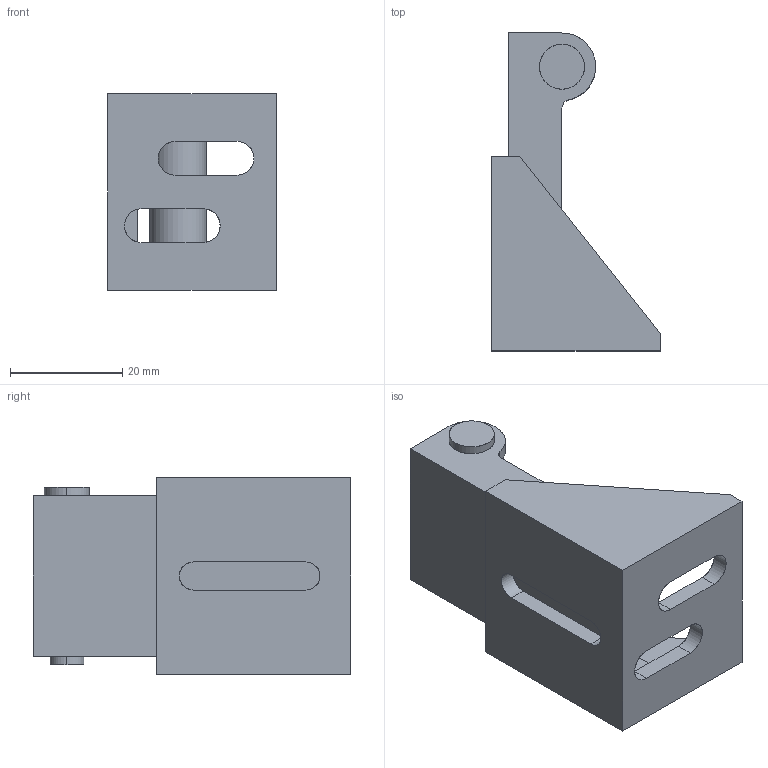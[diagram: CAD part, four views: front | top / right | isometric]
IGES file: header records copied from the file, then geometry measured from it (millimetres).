
Start section: SolidWorks IGES file using analytic representation for surfaces
Global section: file name: D:\尚坤工业图纸\SK1--门锁系列\SK1-100-4\SK1-100-4.IGS; native system: SolidWorks 2015; preprocessor: SolidWorks 2015; author: admin; date: 181101.105850; units: millimetre
Bounding box: 30 x 56.5 x 35 mm (x, y, z)
Surface area: 15077.6 mm2 (no closed solid volume)
Topology: 0 solids, 0 shells, 297 faces, 2059 edges, 2058 vertices
Faces by surface type: bspline 260, revolution 37
